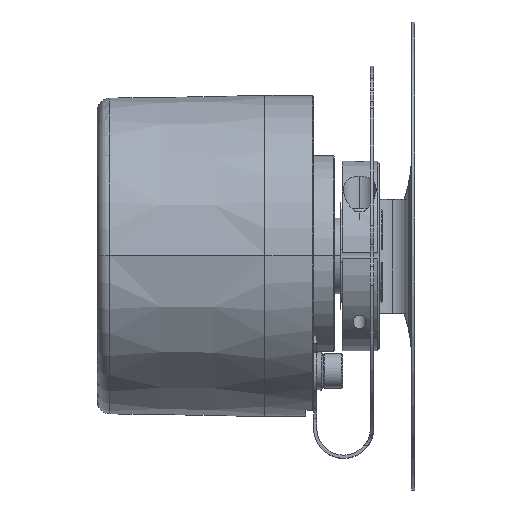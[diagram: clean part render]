
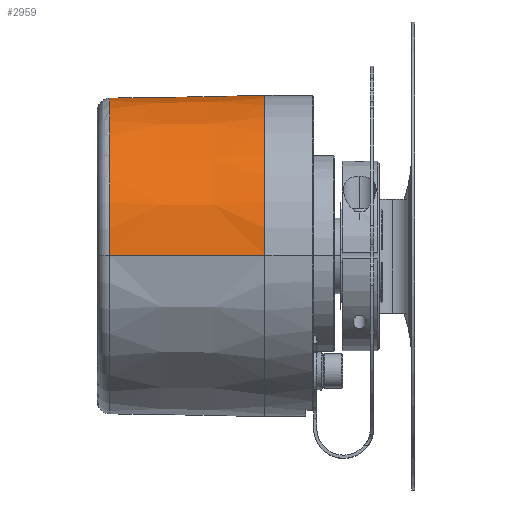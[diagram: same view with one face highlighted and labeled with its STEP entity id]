
A CAD part, top view. The second image highlights one B-rep face of the part: STEP entity #2959.
In plain terms, the highlighted conical face has half-angle 1 degrees and reference radius 25.4 mm.
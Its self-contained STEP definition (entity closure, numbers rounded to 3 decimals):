
#2721 = ORIENTED_EDGE ( 'NONE', *, *, #2722, .T. ) ;
#2722 = EDGE_CURVE ( 'NONE', #2723, #2724, #6722, .T. ) ;
#2723 = VERTEX_POINT ( 'NONE', #6535 ) ;
#2724 = VERTEX_POINT ( 'NONE', #6540 ) ;
#2725 = ORIENTED_EDGE ( 'NONE', *, *, #3272, .T. ) ;
#2945 = EDGE_LOOP ( 'NONE', ( #2721, #2725, #3289, #3273, #3291, #3232 ) ) ;
#2959 = ADVANCED_FACE ( 'NONE', ( #8517 ), #8807, .T. ) ;
#3144 = EDGE_CURVE ( 'NONE', #3288, #3146, #13944, .T. ) ;
#3146 = VERTEX_POINT ( 'NONE', #13940 ) ;
#3149 = VERTEX_POINT ( 'NONE', #13939 ) ;
#3222 = EDGE_CURVE ( 'NONE', #3231, #2723, #11915, .T. ) ;
#3231 = VERTEX_POINT ( 'NONE', #12124 ) ;
#3232 = ORIENTED_EDGE ( 'NONE', *, *, #3222, .T. ) ;
#3272 = EDGE_CURVE ( 'NONE', #2724, #3288, #12093, .T. ) ;
#3273 = ORIENTED_EDGE ( 'NONE', *, *, #3274, .T. ) ;
#3274 = EDGE_CURVE ( 'NONE', #3146, #3149, #12162, .T. ) ;
#3288 = VERTEX_POINT ( 'NONE', #12332 ) ;
#3289 = ORIENTED_EDGE ( 'NONE', *, *, #3144, .T. ) ;
#3291 = ORIENTED_EDGE ( 'NONE', *, *, #3292, .F. ) ;
#3292 = EDGE_CURVE ( 'NONE', #3231, #3149, #12432, .T. ) ;
#6534 = CARTESIAN_POINT ( 'NONE',  ( -19.035, 0., 0. ) ) ;
#6535 = CARTESIAN_POINT ( 'NONE',  ( -19.035, 16.728, -18.541 ) ) ;
#6540 = CARTESIAN_POINT ( 'NONE',  ( -19.035, 0., 24.972 ) ) ;
#6586 = DIRECTION ( 'NONE',  ( 0., 0., -1. ) ) ;
#6588 = DIRECTION ( 'NONE',  ( 1., 0., 0. ) ) ;
#6721 = AXIS2_PLACEMENT_3D ( 'NONE', #6534, #6588, #6586 ) ;
#6722 = CIRCLE ( 'NONE', #6721, 24.972 ) ;
#8517 = FACE_OUTER_BOUND ( 'NONE', #2945, .T. ) ;
#8781 = DIRECTION ( 'NONE',  ( 0., 0., 1. ) ) ;
#8807 = CONICAL_SURFACE ( 'NONE', #8810, 25.4, 0.017 ) ;
#8810 = AXIS2_PLACEMENT_3D ( 'NONE', #8853, #8851, #8781 ) ;
#8851 = DIRECTION ( 'NONE',  ( 1., 0., 0. ) ) ;
#8853 = CARTESIAN_POINT ( 'NONE',  ( 5.5, 0., 0. ) ) ;
#11915 = B_SPLINE_CURVE_WITH_KNOTS ( 'NONE', 3,
 ( #12040, #12089, #12127, #12171 ),
 .UNSPECIFIED., .F., .F.,
 ( 4, 4 ),
 ( 0., 0. ),
 .UNSPECIFIED. ) ;
#12040 = CARTESIAN_POINT ( 'NONE',  ( -19., 16.728, -18.542 ) ) ;
#12089 = CARTESIAN_POINT ( 'NONE',  ( -19.012, 16.728, -18.541 ) ) ;
#12090 = DIRECTION ( 'NONE',  ( 1., 0., 0.017 ) ) ;
#12091 = VECTOR ( 'NONE', #12090, 1000. ) ;
#12092 = CARTESIAN_POINT ( 'NONE',  ( 5.5, 0., 25.4 ) ) ;
#12093 = LINE ( 'NONE', #12092, #12091 ) ;
#12124 = CARTESIAN_POINT ( 'NONE',  ( -19., 16.728, -18.542 ) ) ;
#12127 = CARTESIAN_POINT ( 'NONE',  ( -19.023, 16.728, -18.541 ) ) ;
#12162 = B_SPLINE_CURVE_WITH_KNOTS ( 'NONE', 3,
 ( #12168, #12167, #12166, #12165, #12164, #12163, #12199, #12198, #12197, #12196, #12195, #12194, #12193, #12192, #12191, #12190 ),
 .UNSPECIFIED., .F., .F.,
 ( 4, 2, 2, 2, 2, 2, 2, 4 ),
 ( 0., 0.001, 0.002, 0.003, 0.004, 0.004, 0.005, 0.005 ),
 .UNSPECIFIED. ) ;
#12163 = CARTESIAN_POINT ( 'NONE',  ( 4.995, 15.129, -20.393 ) ) ;
#12164 = CARTESIAN_POINT ( 'NONE',  ( 5.211, 14.67, -20.733 ) ) ;
#12165 = CARTESIAN_POINT ( 'NONE',  ( 5.318, 14.345, -20.961 ) ) ;
#12166 = CARTESIAN_POINT ( 'NONE',  ( 5.461, 13.682, -21.403 ) ) ;
#12167 = CARTESIAN_POINT ( 'NONE',  ( 5.5, 13.341, -21.618 ) ) ;
#12168 = CARTESIAN_POINT ( 'NONE',  ( 5.5, 12.989, -21.828 ) ) ;
#12171 = CARTESIAN_POINT ( 'NONE',  ( -19.035, 16.728, -18.541 ) ) ;
#12190 = CARTESIAN_POINT ( 'NONE',  ( 3.5, 16.319, -19.418 ) ) ;
#12191 = CARTESIAN_POINT ( 'NONE',  ( 3.603, 16.317, -19.422 ) ) ;
#12192 = CARTESIAN_POINT ( 'NONE',  ( 3.705, 16.3, -19.439 ) ) ;
#12193 = CARTESIAN_POINT ( 'NONE',  ( 3.895, 16.245, -19.489 ) ) ;
#12194 = CARTESIAN_POINT ( 'NONE',  ( 3.985, 16.206, -19.524 ) ) ;
#12195 = CARTESIAN_POINT ( 'NONE',  ( 4.234, 16.07, -19.642 ) ) ;
#12196 = CARTESIAN_POINT ( 'NONE',  ( 4.375, 15.953, -19.741 ) ) ;
#12197 = CARTESIAN_POINT ( 'NONE',  ( 4.619, 15.701, -19.947 ) ) ;
#12198 = CARTESIAN_POINT ( 'NONE',  ( 4.726, 15.564, -20.057 ) ) ;
#12199 = CARTESIAN_POINT ( 'NONE',  ( 4.914, 15.278, -20.28 ) ) ;
#12309 = CARTESIAN_POINT ( 'NONE',  ( 3.5, 16.319, -19.418 ) ) ;
#12310 = CARTESIAN_POINT ( 'NONE',  ( -4.001, 16.45, -19.137 ) ) ;
#12311 = CARTESIAN_POINT ( 'NONE',  ( -11.501, 16.586, -18.846 ) ) ;
#12332 = CARTESIAN_POINT ( 'NONE',  ( 5.5, 0., 25.4 ) ) ;
#12419 = CARTESIAN_POINT ( 'NONE',  ( -19., 16.728, -18.542 ) ) ;
#12432 = B_SPLINE_CURVE_WITH_KNOTS ( 'NONE', 3,
 ( #12419, #12311, #12310, #12309 ),
 .UNSPECIFIED., .F., .F.,
 ( 4, 4 ),
 ( 0.002, 0.025 ),
 .UNSPECIFIED. ) ;
#13939 = CARTESIAN_POINT ( 'NONE',  ( 3.5, 16.319, -19.418 ) ) ;
#13940 = CARTESIAN_POINT ( 'NONE',  ( 5.5, 12.989, -21.828 ) ) ;
#13941 = DIRECTION ( 'NONE',  ( 0., 0., -1. ) ) ;
#13942 = DIRECTION ( 'NONE',  ( -1., 0., 0. ) ) ;
#13943 = AXIS2_PLACEMENT_3D ( 'NONE', #13949, #13942, #13941 ) ;
#13944 = CIRCLE ( 'NONE', #13943, 25.4 ) ;
#13949 = CARTESIAN_POINT ( 'NONE',  ( 5.5, 0., 0. ) ) ;
